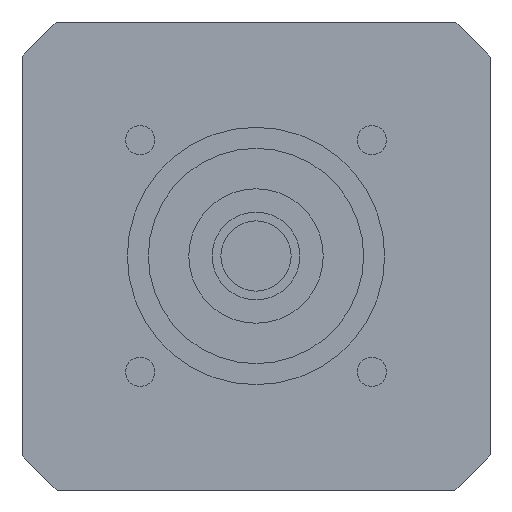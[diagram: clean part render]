
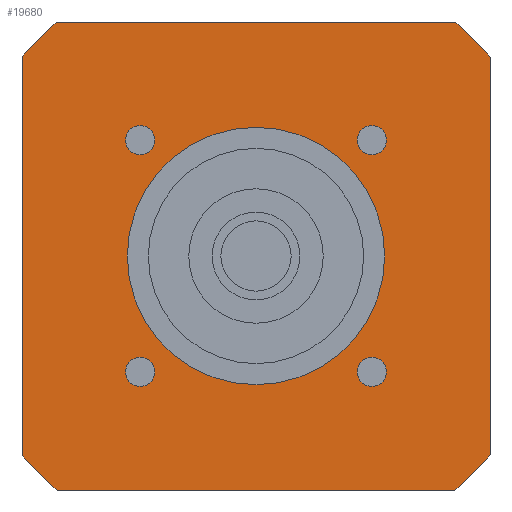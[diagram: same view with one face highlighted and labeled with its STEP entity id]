
A CAD part, left-side view. The second image highlights one B-rep face of the part: STEP entity #19680.
In plain terms, the highlighted planar face has unit normal (-1, 0, 0) as drawn and (0, 0, -1) by its records, which use the part's own axes.
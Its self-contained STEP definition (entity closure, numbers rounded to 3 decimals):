
#14170=CARTESIAN_POINT('',(40.,-34.004,-44.));
#14180=VERTEX_POINT('',#14170);
#14210=CARTESIAN_POINT('',(0.,0.,
-44.));
#14220=DIRECTION('',(0.,0.,1.));
#14230=DIRECTION('',(1.,0.,0.));
#14240=AXIS2_PLACEMENT_3D('',#14210,#14220,#14230);
#14250=CIRCLE('',#14240,52.5);
#14260=CARTESIAN_POINT('',(34.004,-40.,-44.));
#14270=VERTEX_POINT('',#14260);
#14280=EDGE_CURVE('',#14270,#14180,#14250,.T.);
#17950=CARTESIAN_POINT('',(40.,34.004,-44.));
#17960=VERTEX_POINT('',#17950);
#18040=CARTESIAN_POINT('',(34.004,40.,-44.));
#18050=VERTEX_POINT('',#18040);
#18080=CARTESIAN_POINT('',(0.,0.,
-44.));
#18090=DIRECTION('',(0.,0.,1.));
#18100=DIRECTION('',(1.,0.,0.));
#18110=AXIS2_PLACEMENT_3D('',#18080,#18090,#18100);
#18120=CIRCLE('',#18110,52.5);
#18130=EDGE_CURVE('',#17960,#18050,#18120,.T.);
#18180=CARTESIAN_POINT('',(40.,40.,-44.));
#18190=DIRECTION('',(0.,0.,1.));
#18200=DIRECTION('',(0.,1.,0.));
#18210=AXIS2_PLACEMENT_3D('',#18180,#18190,#18200);
#18220=PLANE('',#18210);
#18230=CARTESIAN_POINT('',(0.,0.,
-44.));
#18240=DIRECTION('',(0.,0.,1.));
#18250=DIRECTION('',(1.,0.,0.));
#18260=AXIS2_PLACEMENT_3D('',#18230,#18240,#18250);
#18270=CIRCLE('',#18260,52.5);
#18280=CARTESIAN_POINT('',(-34.004,40.,-44.));
#18290=VERTEX_POINT('',#18280);
#18300=CARTESIAN_POINT('',(-40.,34.004,-44.));
#18310=VERTEX_POINT('',#18300);
#18320=EDGE_CURVE('',#18290,#18310,#18270,.T.);
#18330=ORIENTED_EDGE('',*,*,#18320,.F.);
#18340=CARTESIAN_POINT('',(-40.,40.,-44.));
#18350=DIRECTION('',(0.,-1.,0.));
#18360=VECTOR('',#18350,1000.);
#18370=LINE('',#18340,#18360);
#18380=CARTESIAN_POINT('',(-40.,-34.004,-44.));
#18390=VERTEX_POINT('',#18380);
#18400=EDGE_CURVE('',#18310,#18390,#18370,.T.);
#18410=ORIENTED_EDGE('',*,*,#18400,.F.);
#18420=CARTESIAN_POINT('',(0.,0.,
-44.));
#18430=DIRECTION('',(0.,0.,1.));
#18440=DIRECTION('',(1.,0.,0.));
#18450=AXIS2_PLACEMENT_3D('',#18420,#18430,#18440);
#18460=CIRCLE('',#18450,52.5);
#18470=CARTESIAN_POINT('',(-34.004,-40.,-44.));
#18480=VERTEX_POINT('',#18470);
#18490=EDGE_CURVE('',#18390,#18480,#18460,.T.);
#18500=ORIENTED_EDGE('',*,*,#18490,.F.);
#18510=CARTESIAN_POINT('',(-40.,-40.,-44.));
#18520=DIRECTION('',(1.,0.,0.));
#18530=VECTOR('',#18520,1000.);
#18540=LINE('',#18510,#18530);
#18550=EDGE_CURVE('',#18480,#14270,#18540,.T.);
#18560=ORIENTED_EDGE('',*,*,#18550,.F.);
#18570=ORIENTED_EDGE('',*,*,#14280,.F.);
#18580=CARTESIAN_POINT('',(40.,-40.,-44.));
#18590=DIRECTION('',(0.,1.,0.));
#18600=VECTOR('',#18590,1000.);
#18610=LINE('',#18580,#18600);
#18620=EDGE_CURVE('',#14180,#17960,#18610,.T.);
#18630=ORIENTED_EDGE('',*,*,#18620,.F.);
#18640=ORIENTED_EDGE('',*,*,#18130,.F.);
#18650=CARTESIAN_POINT('',(40.,40.,-44.));
#18660=DIRECTION('',(-1.,0.,0.));
#18670=VECTOR('',#18660,1000.);
#18680=LINE('',#18650,#18670);
#18690=EDGE_CURVE('',#18050,#18290,#18680,.T.);
#18700=ORIENTED_EDGE('',*,*,#18690,.F.);
#18710=EDGE_LOOP('',(#18700,#18640,#18630,#18570,#18560,#18500,#18410,
#18330));
#18720=FACE_OUTER_BOUND('',#18710,.T.);
#18730=CARTESIAN_POINT('',(-19.799,19.799,-44.));
#18740=DIRECTION('',(0.,0.,-1.));
#18750=DIRECTION('',(1.,0.,0.));
#18760=AXIS2_PLACEMENT_3D('',#18730,#18740,#18750);
#18770=CIRCLE('',#18760,2.5);
#18780=CARTESIAN_POINT('',(-17.299,19.799,-44.));
#18790=VERTEX_POINT('',#18780);
#18800=CARTESIAN_POINT('',(-19.799,17.299,-44.));
#18810=VERTEX_POINT('',#18800);
#18820=EDGE_CURVE('',#18790,#18810,#18770,.T.);
#18830=ORIENTED_EDGE('',*,*,#18820,.F.);
#18840=CARTESIAN_POINT('',(-19.799,22.299,-44.));
#18850=VERTEX_POINT('',#18840);
#18860=EDGE_CURVE('',#18810,#18850,#18770,.T.);
#18870=ORIENTED_EDGE('',*,*,#18860,.F.);
#18880=EDGE_CURVE('',#18850,#18790,#18770,.T.);
#18890=ORIENTED_EDGE('',*,*,#18880,.F.);
#18900=EDGE_LOOP('',(#18890,#18870,#18830));
#18910=FACE_BOUND('',#18900,.T.);
#18920=CARTESIAN_POINT('',(19.799,19.799,-44.));
#18930=DIRECTION('',(0.,0.,-1.));
#18940=DIRECTION('',(1.,0.,0.));
#18950=AXIS2_PLACEMENT_3D('',#18920,#18930,#18940);
#18960=CIRCLE('',#18950,2.5);
#18970=CARTESIAN_POINT('',(22.299,19.799,-44.));
#18980=VERTEX_POINT('',#18970);
#18990=CARTESIAN_POINT('',(19.799,17.299,-44.));
#19000=VERTEX_POINT('',#18990);
#19010=EDGE_CURVE('',#18980,#19000,#18960,.T.);
#19020=ORIENTED_EDGE('',*,*,#19010,.F.);
#19030=CARTESIAN_POINT('',(19.799,22.299,-44.));
#19040=VERTEX_POINT('',#19030);
#19050=EDGE_CURVE('',#19000,#19040,#18960,.T.);
#19060=ORIENTED_EDGE('',*,*,#19050,.F.);
#19070=EDGE_CURVE('',#19040,#18980,#18960,.T.);
#19080=ORIENTED_EDGE('',*,*,#19070,.F.);
#19090=EDGE_LOOP('',(#19080,#19060,#19020));
#19100=FACE_BOUND('',#19090,.T.);
#19110=CARTESIAN_POINT('',(19.799,-19.799,-44.));
#19120=DIRECTION('',(0.,0.,-1.));
#19130=DIRECTION('',(1.,0.,0.));
#19140=AXIS2_PLACEMENT_3D('',#19110,#19120,#19130);
#19150=CIRCLE('',#19140,2.5);
#19160=CARTESIAN_POINT('',(22.299,-19.799,-44.));
#19170=VERTEX_POINT('',#19160);
#19180=CARTESIAN_POINT('',(19.799,-22.299,-44.));
#19190=VERTEX_POINT('',#19180);
#19200=EDGE_CURVE('',#19170,#19190,#19150,.T.);
#19210=ORIENTED_EDGE('',*,*,#19200,.F.);
#19220=CARTESIAN_POINT('',(19.799,-17.299,-44.));
#19230=VERTEX_POINT('',#19220);
#19240=EDGE_CURVE('',#19190,#19230,#19150,.T.);
#19250=ORIENTED_EDGE('',*,*,#19240,.F.);
#19260=EDGE_CURVE('',#19230,#19170,#19150,.T.);
#19270=ORIENTED_EDGE('',*,*,#19260,.F.);
#19280=EDGE_LOOP('',(#19270,#19250,#19210));
#19290=FACE_BOUND('',#19280,.T.);
#19300=CARTESIAN_POINT('',(-19.799,-19.799,-44.));
#19310=DIRECTION('',(0.,0.,-1.));
#19320=DIRECTION('',(1.,0.,0.));
#19330=AXIS2_PLACEMENT_3D('',#19300,#19310,#19320);
#19340=CIRCLE('',#19330,2.5);
#19350=CARTESIAN_POINT('',(-17.299,-19.799,-44.));
#19360=VERTEX_POINT('',#19350);
#19370=CARTESIAN_POINT('',(-19.799,-22.299,-44.));
#19380=VERTEX_POINT('',#19370);
#19390=EDGE_CURVE('',#19360,#19380,#19340,.T.);
#19400=ORIENTED_EDGE('',*,*,#19390,.F.);
#19410=CARTESIAN_POINT('',(-19.799,-17.299,-44.));
#19420=VERTEX_POINT('',#19410);
#19430=EDGE_CURVE('',#19380,#19420,#19340,.T.);
#19440=ORIENTED_EDGE('',*,*,#19430,.F.);
#19450=EDGE_CURVE('',#19420,#19360,#19340,.T.);
#19460=ORIENTED_EDGE('',*,*,#19450,.F.);
#19470=EDGE_LOOP('',(#19460,#19440,#19400));
#19480=FACE_BOUND('',#19470,.T.);
#19490=CARTESIAN_POINT('',(0.,0.,
-44.));
#19500=DIRECTION('',(0.,0.,1.));
#19510=DIRECTION('',(1.,0.,0.));
#19520=AXIS2_PLACEMENT_3D('',#19490,#19500,#19510);
#19530=CIRCLE('',#19520,22.);
#19540=CARTESIAN_POINT('',(0.,22.,-44.));
#19550=VERTEX_POINT('',#19540);
#19560=CARTESIAN_POINT('',(0.,-22.,-44.));
#19570=VERTEX_POINT('',#19560);
#19580=EDGE_CURVE('',#19550,#19570,#19530,.T.);
#19590=ORIENTED_EDGE('',*,*,#19580,.T.);
#19600=CARTESIAN_POINT('',(22.,0.,-44.));
#19610=VERTEX_POINT('',#19600);
#19620=EDGE_CURVE('',#19610,#19550,#19530,.T.);
#19630=ORIENTED_EDGE('',*,*,#19620,.T.);
#19640=EDGE_CURVE('',#19570,#19610,#19530,.T.);
#19650=ORIENTED_EDGE('',*,*,#19640,.T.);
#19660=EDGE_LOOP('',(#19650,#19630,#19590));
#19670=FACE_BOUND('',#19660,.T.);
#19680=ADVANCED_FACE('',(#18720,#18910,#19100,#19290,#19480,#19670),
#18220,.F.);
